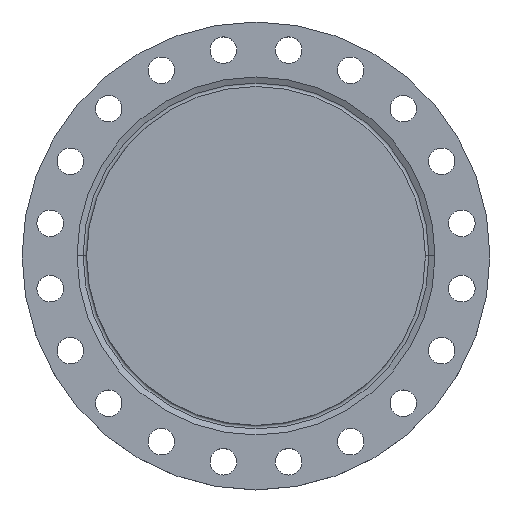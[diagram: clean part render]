
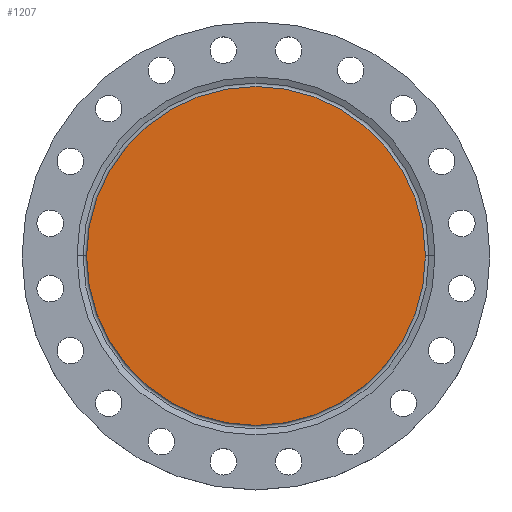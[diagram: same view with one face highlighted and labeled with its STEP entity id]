
A CAD part, top view. The second image highlights one B-rep face of the part: STEP entity #1207.
In plain terms, the highlighted planar face has unit normal (0, 0, 1).
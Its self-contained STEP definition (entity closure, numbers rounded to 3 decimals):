
#13 = CARTESIAN_POINT ( 'NONE',  ( -248., 0., 0. ) ) ;
#36 = CIRCLE ( 'NONE', #1899, 248. ) ;
#73 = DIRECTION ( 'NONE',  ( 0., 0., -1. ) ) ;
#157 = EDGE_CURVE ( 'NONE', #1418, #855, #36, .T. ) ;
#247 = DIRECTION ( 'NONE',  ( 1., 0., 0. ) ) ;
#250 = DIRECTION ( 'NONE',  ( 0., 0., 1. ) ) ;
#253 = CARTESIAN_POINT ( 'NONE',  ( 0., 0., 0. ) ) ;
#258 = PLANE ( 'NONE',  #1295 ) ;
#259 = FACE_OUTER_BOUND ( 'NONE', #1453, .T. ) ;
#468 = CARTESIAN_POINT ( 'NONE',  ( 248., 0., 0. ) ) ;
#749 = DIRECTION ( 'NONE',  ( -1., 0., 0. ) ) ;
#751 = DIRECTION ( 'NONE',  ( 0., 0., -1. ) ) ;
#753 = CARTESIAN_POINT ( 'NONE',  ( 0., 0., 0. ) ) ;
#855 = VERTEX_POINT ( 'NONE', #468 ) ;
#937 = DIRECTION ( 'NONE',  ( -1., 0., 0. ) ) ;
#1078 = ORIENTED_EDGE ( 'NONE', *, *, #1588, .F. ) ;
#1081 = ORIENTED_EDGE ( 'NONE', *, *, #157, .F. ) ;
#1202 = AXIS2_PLACEMENT_3D ( 'NONE', #1607, #73, #937 ) ;
#1207 = ADVANCED_FACE ( 'NONE', ( #259 ), #258, .T. ) ;
#1295 = AXIS2_PLACEMENT_3D ( 'NONE', #253, #250, #247 ) ;
#1418 = VERTEX_POINT ( 'NONE', #13 ) ;
#1453 = EDGE_LOOP ( 'NONE', ( #1081, #1078 ) ) ;
#1588 = EDGE_CURVE ( 'NONE', #855, #1418, #1812, .T. ) ;
#1607 = CARTESIAN_POINT ( 'NONE',  ( 0., 0., 0. ) ) ;
#1812 = CIRCLE ( 'NONE', #1202, 248. ) ;
#1899 = AXIS2_PLACEMENT_3D ( 'NONE', #753, #751, #749 ) ;
